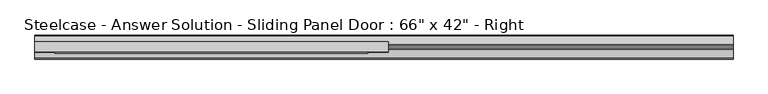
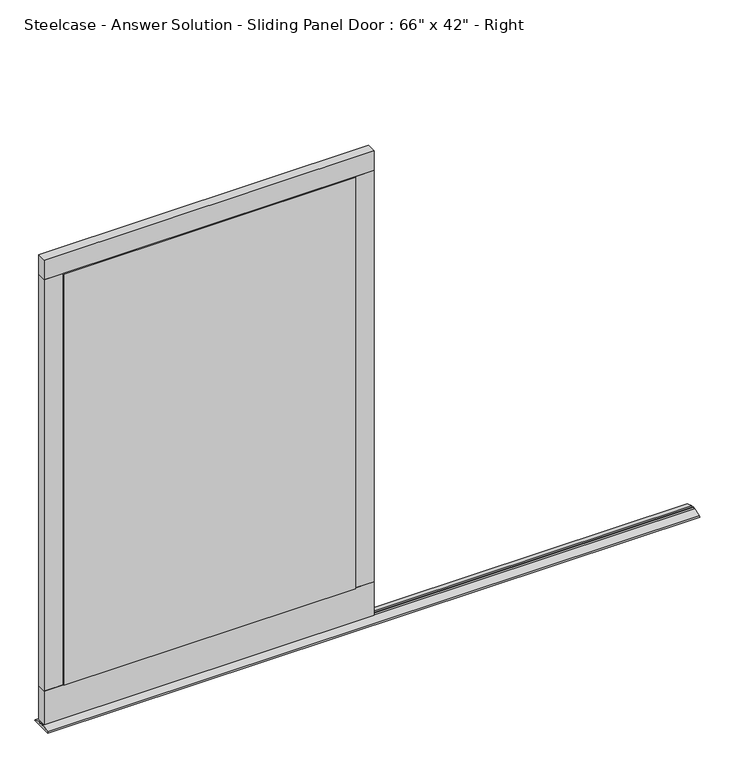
"""IFC4 building model written with IfcOpenShell, lengths in millimetres: furniture geometry."""

from ifc_helpers import new_model, si_unit, frame, origin, place, context, project, spatial, polyline, outline, extrude, source, transform, mapped, element, save


def furniture_d626042e(model_context):
    return source(origin(), model_context, "Body", "SweptSolid", [
        extrude(outline(polyline([(-1041.4, -53.9597878), (-2159.0, -53.9597878), (-2159.0, -22.2097635), (-1041.4, -22.2097635), (-1041.4, -53.9597878)])), frame((0.0, 0.0, 1610.3589729), z_axis=(0.0, 0.0, 1.0), x_axis=(1.0, 0.0, 0.0)), (0.0, 0.0, 1.0), 69.8499516),
        extrude(outline(polyline([(-2095.5000969, -53.9597878), (-2159.0, -53.9597878), (-2159.0, -22.2097635), (-2095.5000969, -22.2097635), (-2095.5000969, -53.9597878)])), frame((0.0, 0.0, 137.1589275), z_axis=(0.0, 0.0, 1.0), x_axis=(1.0, 0.0, 0.0)), (0.0, 0.0, 1.0), 1473.2000454),
        extrude(outline(polyline([(-1041.4, -53.9597878), (-1104.8999031, -53.9597878), (-1104.8999031, -22.2097635), (-1041.4, -22.2097635), (-1041.4, -53.9597878)])), frame((0.0, 0.0, 137.1589275), z_axis=(0.0, 0.0, 1.0), x_axis=(1.0, 0.0, 0.0)), (0.0, 0.0, 1.0), 1473.2000454),
        extrude(outline(polyline([(-1041.4, -53.9597878), (-2159.0, -53.9597878), (-2159.0, -22.2097635), (-1041.4, -22.2097635), (-1041.4, -53.9597878)])), frame((0.0, 0.0, 16.5089245), z_axis=(0.0, 0.0, 1.0), x_axis=(1.0, 0.0, 0.0)), (0.0, 0.0, 1.0), 120.650003),
        extrude(outline(polyline([(-1104.8999031, -53.9597878), (-1104.8999031, -57.7514894), (-2095.5000969, -57.7514894), (-2095.5000969, -53.9597878), (-1104.8999031, -53.9597878)])), frame((0.0, 0.0, 137.1589275), z_axis=(0.0, 0.0, 1.0), x_axis=(1.0, 0.0, 0.0)), (0.0, 0.0, 1.0), 1473.2000454),
        extrude(outline(polyline([(-29.8388763, 12.2491055), (-1.9333122, 3.0138476), (0.0, 0.0), (-76.1694786, 0.0), (-74.2361664, 3.0138476), (-46.3306023, 12.2491055), (-46.3306023, 6.2879429), (-39.9806265, 6.2879429), (-39.9806265, 12.6379637), (-36.1889248, 12.6379637), (-36.1889248, 6.2879429), (-29.8388763, 6.2879429), (-29.8388763, 12.2491055)])), frame((-2159.0, 0.0, 0.0), z_axis=(1.0, 0.0, 0.0), x_axis=(0.0, 1.0, 0.0)), (0.0, 0.0, 1.0), 2209.8),
    ])


if __name__ == "__main__":
    model = new_model("IFC4")
    model_context = context("Model", 3, world=origin())
    ifc_project = project(units=[si_unit("LENGTHUNIT", "METRE", prefix="MILLI")], contexts=[model_context])
    site = spatial("IfcSite", under=ifc_project)
    building = spatial("IfcBuilding", under=site)
    placement = place(None, origin())
    furniture_shape = furniture_d626042e(model_context)
    element("IfcFurniture", 1, ObjectType="Steelcase - Answer Solution - Sliding Panel Door : 66\" x 42\" - Right", at=placement, inside=building, context=model_context, shape_type="MappedRepresentation", body=[
        mapped(furniture_shape, transform((0.0, 0.0, 0.0), x_axis=(1.0, 0.0, 0.0), y_axis=(0.0, 1.0, 0.0), z_axis=(0.0, 0.0, 1.0))),
    ])
    save(model, "model.ifc")
